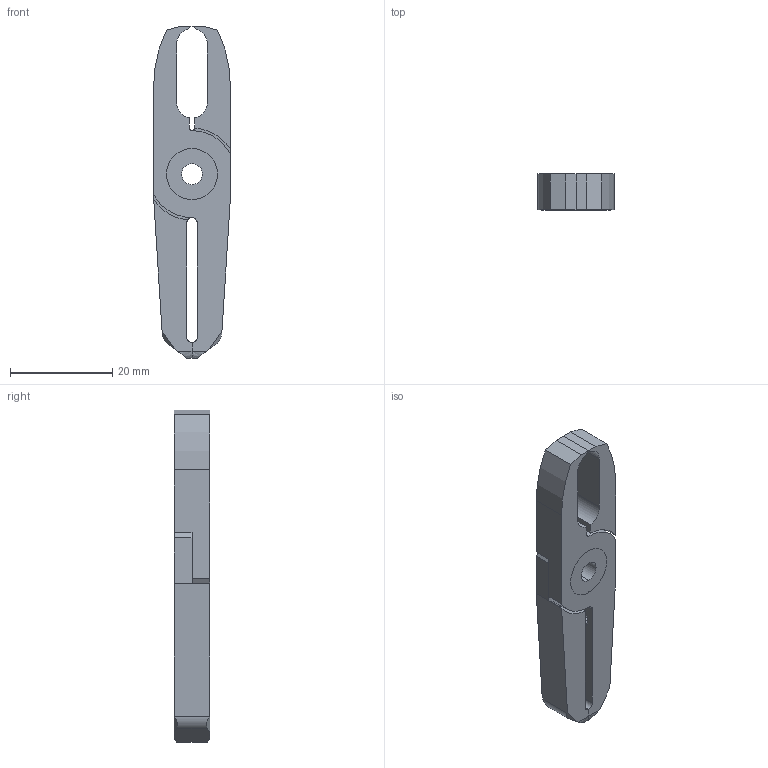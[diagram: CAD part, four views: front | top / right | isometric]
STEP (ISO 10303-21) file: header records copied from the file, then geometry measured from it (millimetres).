
FILE_DESCRIPTION (( 'STEP AP214' ), '1' );
FILE_NAME ('NT05AE.STEP', '2019-11-29T01:02:28', ( '微软用户' ), ( '微软中国' ), 'SwSTEP 2.0', 'SolidWorks 2016', '' );
FILE_SCHEMA (( 'AUTOMOTIVE_DESIGN' ));
Length unit declared in the file: millimetre
Products named in the file (4): BR2; BR1; BS; NT05AE
Assembly tree (3 placements, depth 2):
  NT05AE
    BS
    BR1
    BR2
Bounding box: 15 x 7 x 65 mm (x, y, z)
Volume: 4845.9 mm3; surface area: 4279.6 mm2
Topology: 3 solids, 3 shells, 92 faces, 242 edges, 154 vertices
Faces by surface type: plane 38, cylinder 24, cone 16, bspline 14
Entity records: 3025 total; most frequent: CARTESIAN_POINT 701, ORIENTED_EDGE 476, DIRECTION 436, EDGE_CURVE 238, VERTEX_POINT 154, VECTOR 146, LINE 146, AXIS2_PLACEMENT_3D 145
